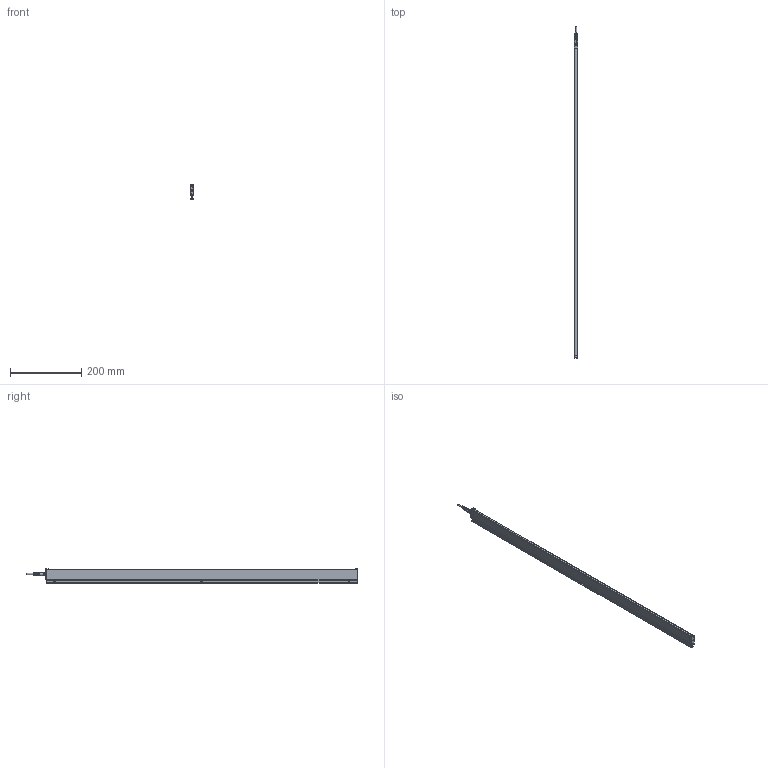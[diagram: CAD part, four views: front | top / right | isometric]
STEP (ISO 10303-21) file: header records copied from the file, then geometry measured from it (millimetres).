
FILE_DESCRIPTION (( 'STEP AP214' ), '1' );
FILE_NAME ('ILG-L-K2-0880mm.STEP', '2017-07-11T08:00:39', ( '' ), ( '' ), 'SwSTEP 2.0', 'SolidWorks 2016', '' );
FILE_SCHEMA (( 'AUTOMOTIVE_DESIGN' ));
Length unit declared in the file: millimetre
Products named in the file (1): ILG-L-K2-0880mm
Bounding box: 9 x 934.5 x 40.71 mm (x, y, z)
Surface area: 176740.1 mm2 (no closed solid volume)
Topology: 0 solids, 13 shells, 679 faces, 1780 edges, 1131 vertices
Faces by surface type: cylinder 286, plane 255, cone 90, bspline 32, torus 16
Entity records: 30532 total; most frequent: CARTESIAN_POINT 6477, ORIENTED_EDGE 3513, DIRECTION 3392, EDGE_CURVE 1764, AXIS2_PLACEMENT_3D 1295, VERTEX_POINT 1131, LINE 802, VECTOR 802
